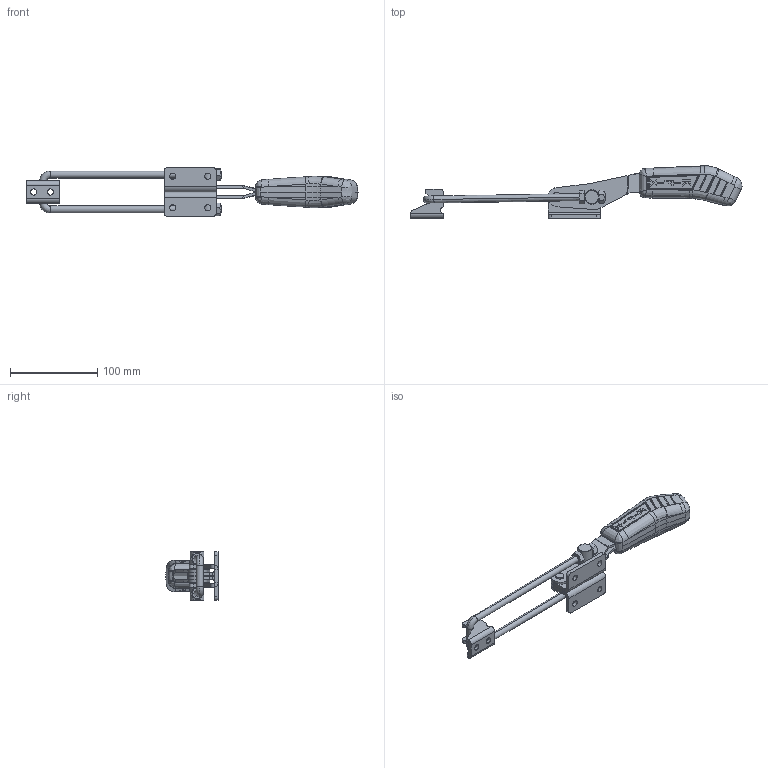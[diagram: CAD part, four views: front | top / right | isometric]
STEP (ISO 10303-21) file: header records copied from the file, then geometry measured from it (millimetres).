
FILE_DESCRIPTION (( 'STEP AP203' ), '1' );
FILE_NAME ('KF-943 DL.STEP', '2014-08-21T14:25:17', ( 'Ricardo' ), ( '' ), 'SwSTEP 2.0', 'SolidWorks 2013', '' );
FILE_SCHEMA (( 'CONFIG_CONTROL_DESIGN' ));
Length unit declared in the file: millimetre
Products named in the file (12): 11.50017; 11.50002; 02.12006_Direita; 07.60003; 02.12006_Esquerda; 06.50049; 01.10058_Direita; KF-943 DL; 01.10058_Esquerda; 16.20101; 03.20056; 15.10030
Assembly tree (13 placements, depth 2):
  KF-943 DL
    02.12006_Direita
    02.12006_Esquerda
    01.10058_Direita
    01.10058_Esquerda
    16.20101
    03.20056
    15.10030
    11.50017  x2
    11.50002  x2
    07.60003
    06.50049
Bounding box: 380.73 x 60.02 x 56.5 mm (x, y, z)
Volume: 191724.5 mm3; surface area: 76055.8 mm2
Topology: 13 solids, 13 shells, 671 faces, 1701 edges, 1060 vertices
Faces by surface type: plane 231, cylinder 192, bspline 153, sphere 48, cone 38, torus 9
Entity records: 24354 total; most frequent: CARTESIAN_POINT 9278, ORIENTED_EDGE 3194, DIRECTION 2400, EDGE_CURVE 1597, VERTEX_POINT 1000, AXIS2_PLACEMENT_3D 932, EDGE_LOOP 691, FACE_OUTER_BOUND 637
